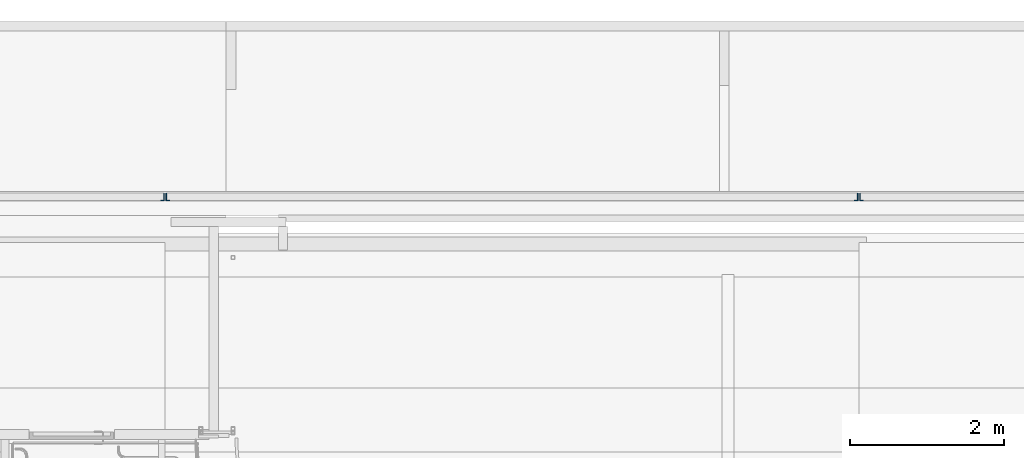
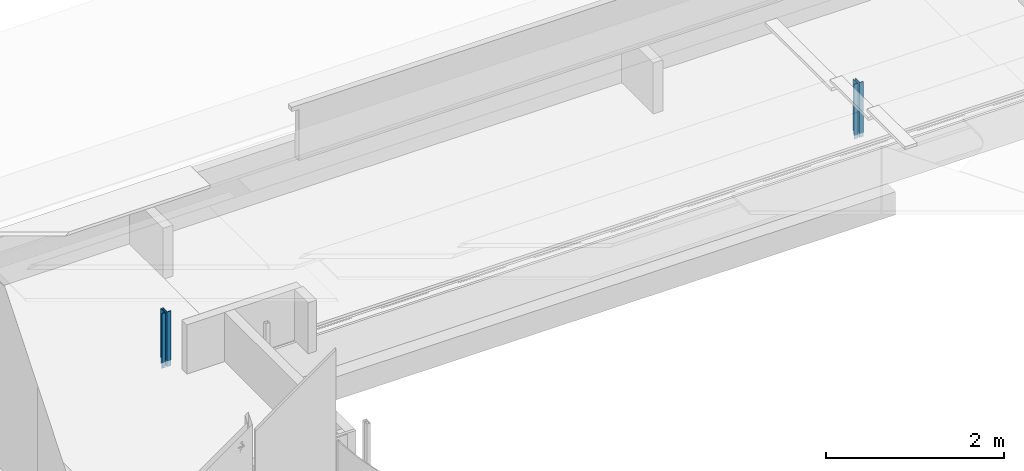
# One storey, part 5 of 18: 4 columns.
"""IFC2X3 building model written with IfcOpenShell, lengths in millimetres."""

from ifc_helpers import new_model, entity, si_unit, converted_unit, derived_unit, direction, frame, origin, origin_with_axes, place, context, subcontext, project, spatial, polyline, outline, extrude, source, transform, mapped, material, type_object, element, save


model = new_model("IFC2X3")

# Units and contexts
model_context = context("Model", 3, precision=0.01, world=frame((0.0, 4.29681676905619e-09, 0.0)), true_north=direction((4.01073788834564e-13, 1.0)))
plan_context = context("Plan", 3, precision=0.01, world=frame((0.0, 4.29681676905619e-09, 0.0)), true_north=direction((4.01073788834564e-13, 1.0)))
body_context = subcontext(model_context, "Body", "Model", "MODEL_VIEW")
ifc_project = project(units=[converted_unit("PLANEANGLEUNIT", "DEGREE", entity("IfcPositiveLengthMeasure", 0.0174532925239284), si_unit("PLANEANGLEUNIT", "RADIAN"), dimensions=[0, 0, 0, 0, 0, 0, 0]), si_unit("AREAUNIT", "SQUARE_METRE"), si_unit("LENGTHUNIT", "METRE", prefix="MILLI"), si_unit("MASSUNIT", "GRAM", prefix="KILO"), si_unit("POWERUNIT", "WATT"), si_unit("PRESSUREUNIT", "PASCAL"), si_unit("FORCEUNIT", "NEWTON", prefix="KILO"), si_unit("ELECTRICVOLTAGEUNIT", "VOLT"), si_unit("ELECTRICCURRENTUNIT", "AMPERE"), si_unit("THERMODYNAMICTEMPERATUREUNIT", "DEGREE_CELSIUS"), si_unit("TIMEUNIT", "SECOND"), si_unit("VOLUMEUNIT", "CUBIC_METRE"), derived_unit("LINEARVELOCITYUNIT", [(si_unit("LENGTHUNIT", "METRE"), 1), (si_unit("TIMEUNIT", "SECOND"), -1)]), derived_unit("VOLUMETRICFLOWRATEUNIT", [(si_unit("VOLUMEUNIT", "CUBIC_METRE"), 1), (si_unit("TIMEUNIT", "SECOND"), -1)]), derived_unit("THERMALTRANSMITTANCEUNIT", [(si_unit("POWERUNIT", "WATT"), 1), (si_unit("THERMODYNAMICTEMPERATUREUNIT", "KELVIN"), -1), (si_unit("AREAUNIT", "SQUARE_METRE"), -1)]), derived_unit("SOUNDPRESSUREUNIT", [(si_unit("PRESSUREUNIT", "PASCAL"), 1)])], contexts=[model_context, plan_context])

# Site, building, storey
site_placement = place(None, origin_with_axes())
site = spatial("IfcSite", under=ifc_project, at=site_placement, Name="ENGM", CompositionType="ELEMENT")
building_placement = place(site_placement, origin_with_axes())
building = spatial("IfcBuilding", under=site, at=building_placement, Name="TH", CompositionType="ELEMENT")
storey_placement = place(building_placement, frame((0.0, 0.0, 210200.0), z_axis=(0.0, 0.0, 1.0), x_axis=(1.0, 0.0, 0.0)))
storey = spatial("IfcBuildingStorey", under=building, at=storey_placement, Name="Nivå F - 0,7 m", CompositionType="ELEMENT", Elevation=210200.0)

# Columns
ifc_material = material(Name="_NSW Stål")
column_type_1 = type_object("IfcColumnType", Name="B222 - Vinkelprofil:B222 - 100x50x8", PredefinedType="COLUMN", material=ifc_material)
shared_shape_1 = source(origin(), body_context, "Body", "SweptSolid", [
    extrude(outline(polyline([(-36.0, -19.3333333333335), (64.0, -19.3333333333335), (64.0, -11.333333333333), (-28.0, -11.333333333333), (-28.0, 30.6666666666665), (-36.0, 30.6666666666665), (-36.0, -19.3333333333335)])), frame((-30.6666666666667, 64.0, 210146.0), z_axis=(0.0, 0.0, 1.0), x_axis=(0.0, -1.0, 0.0)), (0.0, 0.0, 1.0), 754.000000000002),
])
for number, where, z_axis, x_axis, name in (
    (1, (897939.999999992, 485126.762499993, -210200.0), (0.0, 0.0, 1.0), (-1.0, 0.0, 0.0), "B222 - Vinkelprofil:B222 - 100x50x8"),
    (2, (906939.999999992, 485126.762499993, -210200.0), (0.0, 0.0, 1.0), (-1.0, 0.0, 0.0), "B222 - Vinkelprofil:B222 - 100x50x8"),
):
    element("IfcColumn", number, at=place(storey_placement, frame(where, z_axis=z_axis, x_axis=x_axis)), inside=storey, type_object=column_type_1, material=ifc_material, Name=name, ObjectType="B222 - Vinkelprofil:B222 - 100x50x8", context=body_context, shape_type="MappedRepresentation", body=[
        mapped(shared_shape_1, transform((0.0, 0.0, 0.0), scale=1.0)),
    ])
column_type_2 = type_object("IfcColumnType", Name="B222 - Vinkelprofil:B222 - 100x50x8", PredefinedType="COLUMN", material=ifc_material)
shared_shape_2 = source(origin(), body_context, "Body", "SweptSolid", [
    extrude(outline(polyline([(-19.3333333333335, -36.0), (30.6666666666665, -36.0), (30.6666666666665, -28.0), (-11.333333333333, -28.0), (-11.333333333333, 64.0), (-19.3333333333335, 64.0), (-19.3333333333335, -36.0)])), frame((-30.6666666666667, -64.0, 210146.0)), (0.0, 0.0, 1.0), 754.000000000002),
])
for number, where, z_axis, x_axis, name in (
    (3, (898060.000824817, 485126.762499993, -210200.0), (0.0, 0.0, 1.0), (1.0, 0.0, 0.0), "B222 - Vinkelprofil:B222 - 100x50x8"),
    (4, (907060.000824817, 485126.762499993, -210200.0), (0.0, 0.0, 1.0), (1.0, 0.0, 0.0), "B222 - Vinkelprofil:B222 - 100x50x8"),
):
    element("IfcColumn", number, at=place(storey_placement, frame(where, z_axis=z_axis, x_axis=x_axis)), inside=storey, type_object=column_type_2, material=ifc_material, Name=name, ObjectType="B222 - Vinkelprofil:B222 - 100x50x8", context=body_context, shape_type="MappedRepresentation", body=[
        mapped(shared_shape_2, transform((0.0, 0.0, 0.0), scale=1.0)),
    ])

save(model, "model.ifc")
